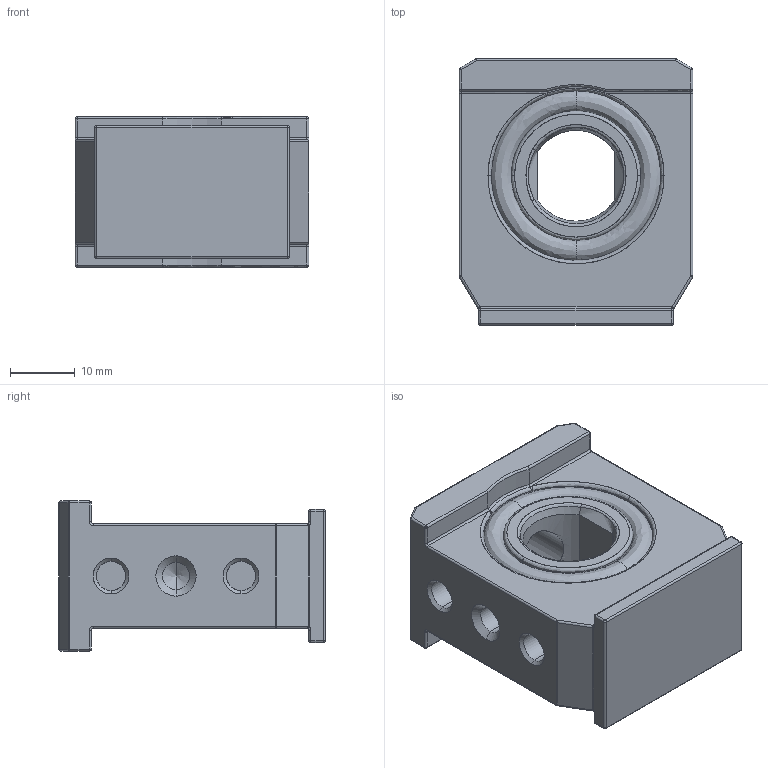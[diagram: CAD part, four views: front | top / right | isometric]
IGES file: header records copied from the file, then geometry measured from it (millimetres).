
Start section: SolidWorks IGES file using analytic representation for surfaces
Global section: file name: C:\Documents and Settings\Administrator\桌面\ZGNUFR03SB.IGS,1; native system: 5HSolidWorks 2012; preprocessor: SolidWorks 2012; author: Administrator; date: 140703.103431; units: millimetre
Bounding box: 36 x 41 x 23.1 mm (x, y, z)
Surface area: 8175.8 mm2 (no closed solid volume)
Topology: 0 solids, 0 shells, 216 faces, 2500 edges, 2948 vertices
Faces by surface type: revolution 120, bspline 96
